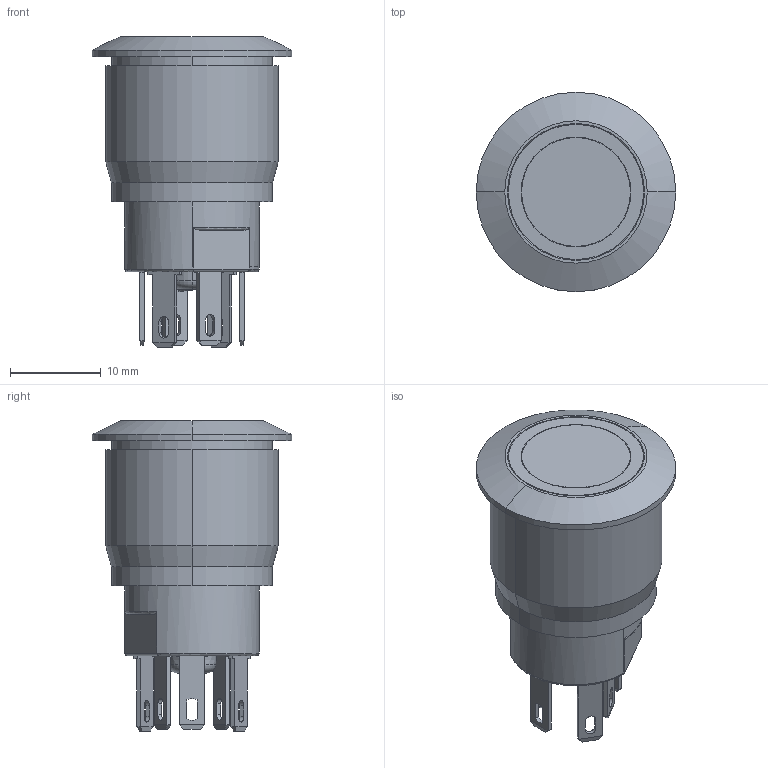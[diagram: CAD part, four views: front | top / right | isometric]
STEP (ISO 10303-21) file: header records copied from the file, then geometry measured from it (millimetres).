
FILE_DESCRIPTION((''),'2;1');
FILE_NAME('AV9X0420000XXX','2011-11-30T',('rboyer'),(''),'PRO/ENGINEER BY PARAMETRIC TECHNOLOGY CORPORATION, 2011250','PRO/ENGINEER BY PARAMETRIC TECHNOLOGY CORPORATION, 2011250','');
FILE_SCHEMA(('CONFIG_CONTROL_DESIGN'));
Length unit declared in the file: millimetre
Products named in the file (1): AV9X0420000XXX
Bounding box: 22 x 22 x 34.2 mm (x, y, z)
Surface area: 5899.5 mm2
Topology: 2 solids, 3 shells, 580 faces, 1608 edges, 1025 vertices
Faces by surface type: plane 415, cylinder 90, cone 36, torus 25, bspline 12, sphere 2
Entity records: 22983 total; most frequent: CARTESIAN_POINT 8087, ORIENTED_EDGE 3214, DIRECTION 2942, EDGE_CURVE 1607, VECTOR 1154, LINE 1154, VERTEX_POINT 1026, AXIS2_PLACEMENT_3D 894
